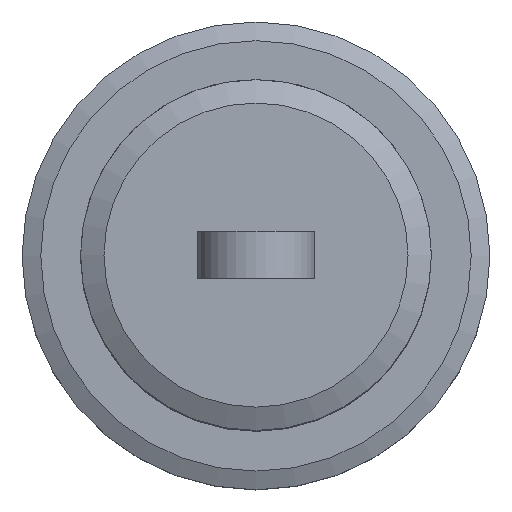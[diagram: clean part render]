
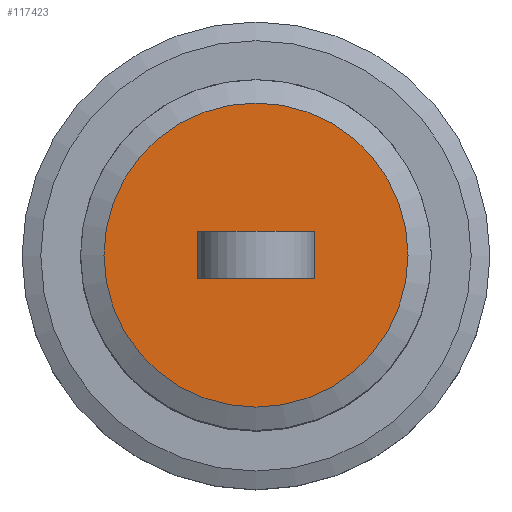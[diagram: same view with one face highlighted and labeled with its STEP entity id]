
A CAD part, top view. The second image highlights one B-rep face of the part: STEP entity #117423.
In plain terms, the highlighted planar face has unit normal (0, 0, 1).
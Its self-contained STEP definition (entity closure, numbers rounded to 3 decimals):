
#117391 = VERTEX_POINT('',#117392);
#117392 = CARTESIAN_POINT('',(13.,0.,50.));
#117398 = EDGE_CURVE('',#117391,#117391,#117399,.T.);
#117399 = CIRCLE('',#117400,13.);
#117400 = AXIS2_PLACEMENT_3D('',#117401,#117402,#117403);
#117401 = CARTESIAN_POINT('',(0.,0.,50.));
#117402 = DIRECTION('',(0.,0.,1.));
#117403 = DIRECTION('',(1.,0.,0.));
#117423 = ADVANCED_FACE('',(#117424,#117427),#117461,.T.);
#117424 = FACE_BOUND('',#117425,.T.);
#117425 = EDGE_LOOP('',(#117426));
#117426 = ORIENTED_EDGE('',*,*,#117398,.T.);
#117427 = FACE_BOUND('',#117428,.T.);
#117428 = EDGE_LOOP('',(#117429,#117439,#117447,#117455));
#117429 = ORIENTED_EDGE('',*,*,#117430,.T.);
#117430 = EDGE_CURVE('',#117431,#117433,#117435,.T.);
#117431 = VERTEX_POINT('',#117432);
#117432 = CARTESIAN_POINT('',(5.,-2.,50.));
#117433 = VERTEX_POINT('',#117434);
#117434 = CARTESIAN_POINT('',(-5.,-2.,50.));
#117435 = LINE('',#117436,#117437);
#117436 = CARTESIAN_POINT('',(-2.5,-2.,50.));
#117437 = VECTOR('',#117438,1.);
#117438 = DIRECTION('',(-1.,0.,0.));
#117439 = ORIENTED_EDGE('',*,*,#117440,.T.);
#117440 = EDGE_CURVE('',#117433,#117441,#117443,.T.);
#117441 = VERTEX_POINT('',#117442);
#117442 = CARTESIAN_POINT('',(-5.,2.,50.));
#117443 = LINE('',#117444,#117445);
#117444 = CARTESIAN_POINT('',(-5.,-1.,50.));
#117445 = VECTOR('',#117446,1.);
#117446 = DIRECTION('',(0.,1.,0.));
#117447 = ORIENTED_EDGE('',*,*,#117448,.F.);
#117448 = EDGE_CURVE('',#117449,#117441,#117451,.T.);
#117449 = VERTEX_POINT('',#117450);
#117450 = CARTESIAN_POINT('',(5.,2.,50.));
#117451 = LINE('',#117452,#117453);
#117452 = CARTESIAN_POINT('',(-2.5,2.,50.));
#117453 = VECTOR('',#117454,1.);
#117454 = DIRECTION('',(-1.,0.,0.));
#117455 = ORIENTED_EDGE('',*,*,#117456,.F.);
#117456 = EDGE_CURVE('',#117431,#117449,#117457,.T.);
#117457 = LINE('',#117458,#117459);
#117458 = CARTESIAN_POINT('',(5.,-1.,50.));
#117459 = VECTOR('',#117460,1.);
#117460 = DIRECTION('',(0.,1.,0.));
#117461 = PLANE('',#117462);
#117462 = AXIS2_PLACEMENT_3D('',#117463,#117464,#117465);
#117463 = CARTESIAN_POINT('',(0.,0.,50.));
#117464 = DIRECTION('',(0.,0.,1.));
#117465 = DIRECTION('',(1.,0.,0.));
